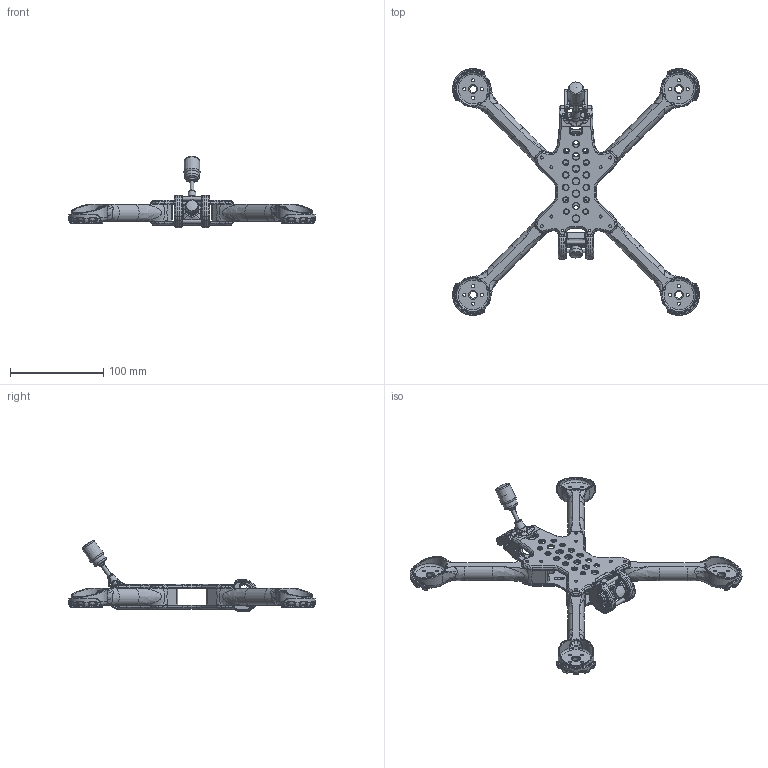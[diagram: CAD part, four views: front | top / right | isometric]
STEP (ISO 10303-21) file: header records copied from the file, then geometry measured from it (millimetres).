
FILE_DESCRIPTION(/* description */ (''),/* implementation_level */ '2;1');
FILE_NAME(/* name */ 'Leopard FPV Drone (7 Inch Version).step',/* time_stamp */ '2026-02-08T22:36:24-05:00',/* author */ (''),/* organization */ (''),/* preprocessor_version */ 'ST-DEVELOPER v20.1',/* originating_system */ 'Autodesk Translation Framework v14.24.0.0',/* authorisation */ '');
FILE_SCHEMA (('AUTOMOTIVE_DESIGN { 1 0 10303 214 3 1 1 }'));
Products named in the file (1): Leopard FPV drone 7" Ver.
Bounding box: 264.97 x 264.97 x 76.64 mm (x, y, z)
Volume: 342325.5 mm3; surface area: 218722.2 mm2
Topology: 36 solids, 36 shells, 6040 faces, 15100 edges, 9095 vertices
Faces by surface type: plane 1665, bspline 1624, cylinder 1591, cone 722, torus 417, sphere 21
Full cylindrical faces by diameter (mm): 2 x3, 2.1 x4, 2.2 x2, 2.3 x45, 2.4 x16, 2.6 x1, 3 x12, 3.1 x24, 3.2 x7, 3.3 x84, 4 x3, 4.2 x1, 4.3 x1, 4.5 x22, 4.6 x8, 4.8 x4, 5 x12, 5.5 x8, 6 x26, 6.8 x1, 7 x14, 7.5 x12, 7.9 x2, 8.5 x4, 10.741 x2, 11 x1, 11.884 x2, 14 x1, 15 x1, 35.5 x4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
Entity records: 238674 total; most frequent: CARTESIAN_POINT 101400, ORIENTED_EDGE 30134, DIRECTION 26245, EDGE_CURVE 15067, AXIS2_PLACEMENT_3D 10074, VERTEX_POINT 9095, EDGE_LOOP 6644, LINE 6097
